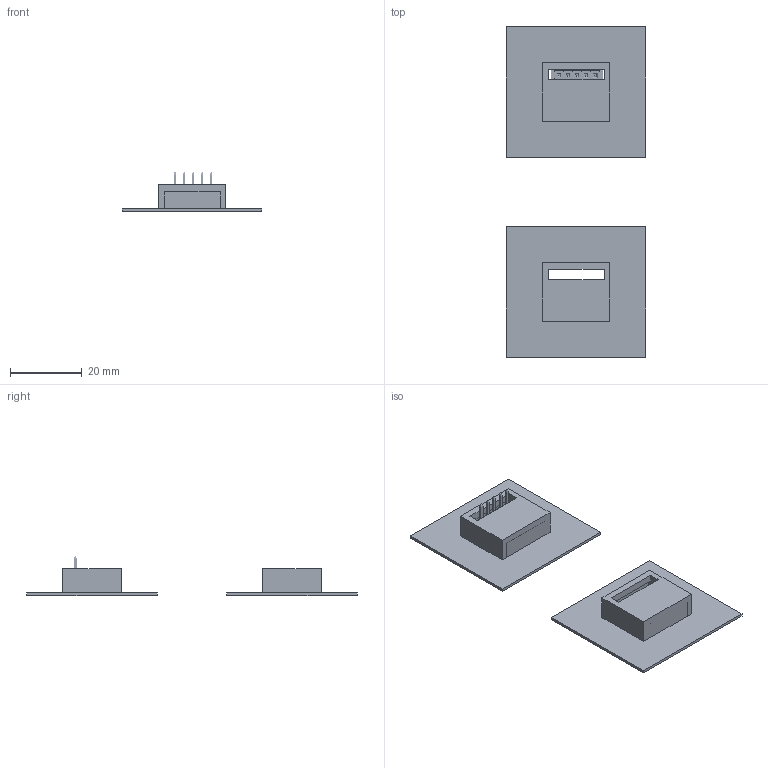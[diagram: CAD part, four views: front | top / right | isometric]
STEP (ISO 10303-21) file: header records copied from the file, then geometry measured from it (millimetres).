
FILE_DESCRIPTION(/* description */ ('STEP AP242 Edition 2','CAx-IF Rec.Pracs.---Representation and Presentation of Product Manufacturing Information (PMI)---4.0---2014-10-13','CAx-IF Rec.Pracs.---3D Tessellated Geometry---0.4---2014-09-14','2;1','CAx-IF Rec.Pracs.---User Defined Attributes---1.5---2016-08-15'),/* implementation_level */ '2;1');
FILE_NAME(/* name */ 'Magnetometer+mount',/* time_stamp */ '2026-02-01T16:56:04Z',/* author */ (''),/* organization */ (''),/* preprocessor_version */ 'ST-DEVELOPER v20',/* originating_system */ 'ONSHAPE BY PTC INC, 1.210',/* authorisation */ ' ');
FILE_SCHEMA (('AP242_MANAGED_MODEL_BASED_3D_ENGINEERING_MIM_LF { 1 0 10303 442 3 1 4 }'));
Length unit declared in the file: centimetre
Products named in the file (49): id2; id5; id8; id11; id14; id17; id20; id23; id26; id29; id32; id35; id38; id41; id44; id47; id50; id53; id56; id59; id62; id65; id68; id71; id74; id77; id80; id83; id86; id89; id92; id95; id98; id101; id104; id107; id110; id113; id116; id119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
Bounding box: 38.92 x 92.31 x 11 mm (x, y, z)
Volume: 3546.5 mm3; surface area: 8440.7 mm2
Topology: 2 solids, 49 shells, 85 faces, 96 edges, 64 vertices
Faces by surface type: other 47, plane 38
Entity records: 2256 total; most frequent: DIRECTION 270, CARTESIAN_POINT 247, ORIENTED_EDGE 192, EDGE_CURVE 96, LINE 96, VECTOR 96, AXIS2_PLACEMENT_3D 87, VERTEX_POINT 64
